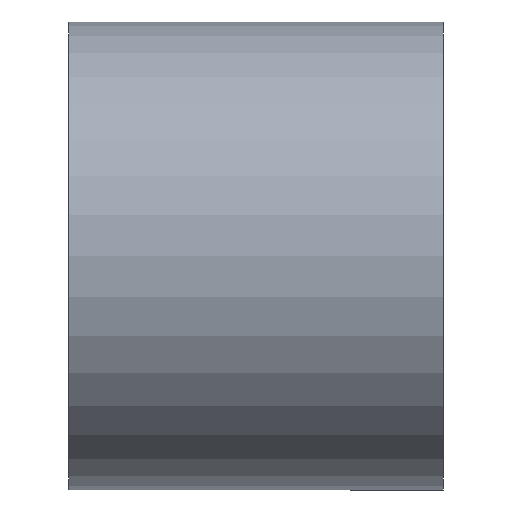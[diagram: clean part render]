
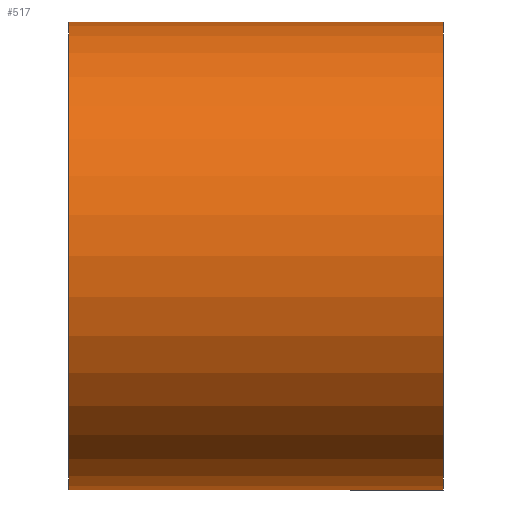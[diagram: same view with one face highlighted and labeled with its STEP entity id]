
A CAD part, front view. The second image highlights one B-rep face of the part: STEP entity #517.
In plain terms, the highlighted cylindrical face has radius 25 mm (diameter 50 mm), a partial arc.
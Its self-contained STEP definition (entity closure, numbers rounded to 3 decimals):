
#7 = LINE ( 'NONE', #510, #132 ) ;
#21 = CIRCLE ( 'NONE', #88, 25. ) ;
#27 = ORIENTED_EDGE ( 'NONE', *, *, #700, .F. ) ;
#59 = VECTOR ( 'NONE', #213, 1000. ) ;
#74 = FACE_OUTER_BOUND ( 'NONE', #250, .T. ) ;
#78 = DIRECTION ( 'NONE',  ( -1., 0., 0. ) ) ;
#88 = AXIS2_PLACEMENT_3D ( 'NONE', #142, #450, #625 ) ;
#90 = VERTEX_POINT ( 'NONE', #629 ) ;
#132 = VECTOR ( 'NONE', #518, 1000. ) ;
#142 = CARTESIAN_POINT ( 'NONE',  ( 20., 0., 0. ) ) ;
#162 = CARTESIAN_POINT ( 'NONE',  ( 0., 0., 25. ) ) ;
#182 = EDGE_CURVE ( 'NONE', #557, #435, #21, .T. ) ;
#213 = DIRECTION ( 'NONE',  ( -1., 0., 0. ) ) ;
#215 = CIRCLE ( 'NONE', #447, 25. ) ;
#218 = LINE ( 'NONE', #162, #59 ) ;
#250 = EDGE_LOOP ( 'NONE', ( #27, #682, #290, #639 ) ) ;
#267 = EDGE_CURVE ( 'NONE', #435, #90, #218, .T. ) ;
#284 = CARTESIAN_POINT ( 'NONE',  ( 20., 0., 25. ) ) ;
#290 = ORIENTED_EDGE ( 'NONE', *, *, #267, .T. ) ;
#346 = DIRECTION ( 'NONE',  ( 0., 0., 1. ) ) ;
#356 = CARTESIAN_POINT ( 'NONE',  ( -20., 0., -25. ) ) ;
#377 = CARTESIAN_POINT ( 'NONE',  ( -20., 0., 0. ) ) ;
#381 = DIRECTION ( 'NONE',  ( -1., 0., 0. ) ) ;
#435 = VERTEX_POINT ( 'NONE', #284 ) ;
#447 = AXIS2_PLACEMENT_3D ( 'NONE', #377, #381, #488 ) ;
#450 = DIRECTION ( 'NONE',  ( -1., 0., 0. ) ) ;
#464 = CARTESIAN_POINT ( 'NONE',  ( 20., 0., -25. ) ) ;
#488 = DIRECTION ( 'NONE',  ( 0., 0., 1. ) ) ;
#510 = CARTESIAN_POINT ( 'NONE',  ( 0., 0., -25. ) ) ;
#517 = ADVANCED_FACE ( 'NONE', ( #74 ), #582, .T. ) ;
#518 = DIRECTION ( 'NONE',  ( -1., 0., 0. ) ) ;
#553 = VERTEX_POINT ( 'NONE', #356 ) ;
#557 = VERTEX_POINT ( 'NONE', #464 ) ;
#582 = CYLINDRICAL_SURFACE ( 'NONE', #602, 25. ) ;
#586 = CARTESIAN_POINT ( 'NONE',  ( 0., 0., 0. ) ) ;
#594 = EDGE_CURVE ( 'NONE', #553, #90, #215, .T. ) ;
#602 = AXIS2_PLACEMENT_3D ( 'NONE', #586, #78, #346 ) ;
#625 = DIRECTION ( 'NONE',  ( 0., 0., 1. ) ) ;
#629 = CARTESIAN_POINT ( 'NONE',  ( -20., 0., 25. ) ) ;
#639 = ORIENTED_EDGE ( 'NONE', *, *, #594, .F. ) ;
#682 = ORIENTED_EDGE ( 'NONE', *, *, #182, .T. ) ;
#700 = EDGE_CURVE ( 'NONE', #557, #553, #7, .T. ) ;
